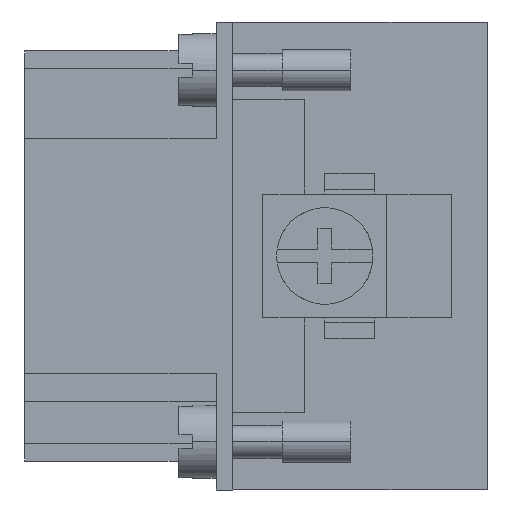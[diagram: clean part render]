
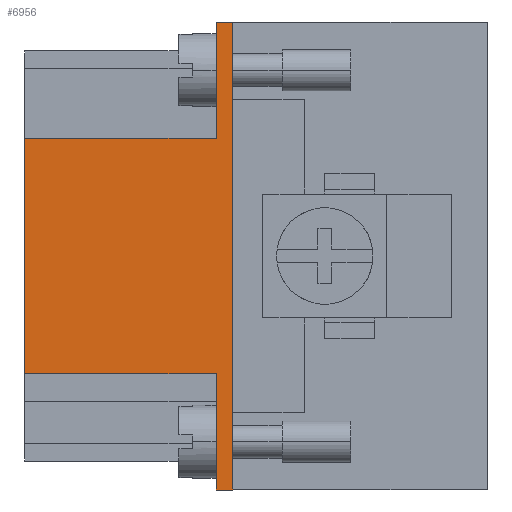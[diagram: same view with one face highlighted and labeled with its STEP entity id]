
A CAD part, left-side view. The second image highlights one B-rep face of the part: STEP entity #6956.
In plain terms, the highlighted planar face has unit normal (-1, 0, 0).
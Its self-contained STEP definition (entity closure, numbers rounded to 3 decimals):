
#47 = CARTESIAN_POINT ( 'NONE',  ( -32.25, -13.9, -17. ) ) ;
#204 = CARTESIAN_POINT ( 'NONE',  ( -32.25, 0., 8.55 ) ) ;
#273 = EDGE_CURVE ( 'NONE', #10133, #6942, #4378, .T. ) ;
#376 = EDGE_CURVE ( 'NONE', #4005, #5736, #6364, .T. ) ;
#633 = DIRECTION ( 'NONE',  ( 0., 1., 0. ) ) ;
#694 = LINE ( 'NONE', #47, #10790 ) ;
#1310 = EDGE_CURVE ( 'NONE', #7392, #5736, #5119, .T. ) ;
#1600 = VECTOR ( 'NONE', #12323, 1000. ) ;
#1604 = CARTESIAN_POINT ( 'NONE',  ( -32.25, -34.241, 8.55 ) ) ;
#1890 = CARTESIAN_POINT ( 'NONE',  ( -32.25, 0., 8.55 ) ) ;
#1928 = VECTOR ( 'NONE', #11600, 1000. ) ;
#1947 = CARTESIAN_POINT ( 'NONE',  ( -32.25, -13.9, 8.55 ) ) ;
#1956 = CARTESIAN_POINT ( 'NONE',  ( -32.25, -13.9, 17. ) ) ;
#1989 = CARTESIAN_POINT ( 'NONE',  ( -32.25, -13.9, -8.55 ) ) ;
#2335 = DIRECTION ( 'NONE',  ( 0., 0., -1. ) ) ;
#2499 = ORIENTED_EDGE ( 'NONE', *, *, #7420, .F. ) ;
#2507 = ORIENTED_EDGE ( 'NONE', *, *, #376, .F. ) ;
#2553 = AXIS2_PLACEMENT_3D ( 'NONE', #8468, #2864, #10701 ) ;
#2864 = DIRECTION ( 'NONE',  ( -1., 0., 0. ) ) ;
#3361 = CARTESIAN_POINT ( 'NONE',  ( -32.25, -15.1, 8.55 ) ) ;
#3424 = CARTESIAN_POINT ( 'NONE',  ( -32.25, 0., -8.55 ) ) ;
#3538 = VECTOR ( 'NONE', #2335, 1000. ) ;
#3546 = CARTESIAN_POINT ( 'NONE',  ( -32.25, -13.9, -17. ) ) ;
#3589 = EDGE_CURVE ( 'NONE', #4045, #9911, #4805, .T. ) ;
#3770 = VECTOR ( 'NONE', #12457, 1000. ) ;
#3892 = VECTOR ( 'NONE', #633, 1000. ) ;
#4005 = VERTEX_POINT ( 'NONE', #3424 ) ;
#4045 = VERTEX_POINT ( 'NONE', #3546 ) ;
#4122 = DIRECTION ( 'NONE',  ( 0., 1., 0. ) ) ;
#4378 = LINE ( 'NONE', #12336, #3770 ) ;
#4805 = LINE ( 'NONE', #6466, #1600 ) ;
#4819 = EDGE_CURVE ( 'NONE', #6942, #9911, #5677, .T. ) ;
#4828 = DIRECTION ( 'NONE',  ( 0., 0., 1. ) ) ;
#5119 = LINE ( 'NONE', #1604, #3892 ) ;
#5361 = ORIENTED_EDGE ( 'NONE', *, *, #273, .F. ) ;
#5419 = CARTESIAN_POINT ( 'NONE',  ( -32.25, -15.1, -17. ) ) ;
#5677 = LINE ( 'NONE', #3361, #3538 ) ;
#5736 = VERTEX_POINT ( 'NONE', #204 ) ;
#5862 = EDGE_LOOP ( 'NONE', ( #11648, #9426, #2507, #2499, #9657, #10075, #9465, #5361 ) ) ;
#6194 = LINE ( 'NONE', #11775, #10467 ) ;
#6364 = LINE ( 'NONE', #1890, #1928 ) ;
#6466 = CARTESIAN_POINT ( 'NONE',  ( -32.25, -13.9, -17. ) ) ;
#6942 = VERTEX_POINT ( 'NONE', #10221 ) ;
#6956 = ADVANCED_FACE ( 'NONE', ( #9443 ), #10268, .T. ) ;
#7392 = VERTEX_POINT ( 'NONE', #1947 ) ;
#7420 = EDGE_CURVE ( 'NONE', #8243, #4005, #7447, .T. ) ;
#7447 = LINE ( 'NONE', #10956, #10667 ) ;
#8243 = VERTEX_POINT ( 'NONE', #1989 ) ;
#8468 = CARTESIAN_POINT ( 'NONE',  ( -32.25, -34.241, 8.55 ) ) ;
#8850 = EDGE_CURVE ( 'NONE', #7392, #10133, #694, .T. ) ;
#8913 = DIRECTION ( 'NONE',  ( 0., 0., 1. ) ) ;
#9426 = ORIENTED_EDGE ( 'NONE', *, *, #1310, .T. ) ;
#9443 = FACE_OUTER_BOUND ( 'NONE', #5862, .T. ) ;
#9465 = ORIENTED_EDGE ( 'NONE', *, *, #4819, .F. ) ;
#9657 = ORIENTED_EDGE ( 'NONE', *, *, #10743, .F. ) ;
#9911 = VERTEX_POINT ( 'NONE', #5419 ) ;
#10075 = ORIENTED_EDGE ( 'NONE', *, *, #3589, .T. ) ;
#10133 = VERTEX_POINT ( 'NONE', #1956 ) ;
#10221 = CARTESIAN_POINT ( 'NONE',  ( -32.25, -15.1, 17. ) ) ;
#10268 = PLANE ( 'NONE',  #2553 ) ;
#10467 = VECTOR ( 'NONE', #8913, 1000. ) ;
#10667 = VECTOR ( 'NONE', #4122, 1000. ) ;
#10701 = DIRECTION ( 'NONE',  ( 0., 1., 0. ) ) ;
#10743 = EDGE_CURVE ( 'NONE', #4045, #8243, #6194, .T. ) ;
#10790 = VECTOR ( 'NONE', #4828, 1000. ) ;
#10956 = CARTESIAN_POINT ( 'NONE',  ( -32.25, -34.241, -8.55 ) ) ;
#11600 = DIRECTION ( 'NONE',  ( 0., 0., 1. ) ) ;
#11648 = ORIENTED_EDGE ( 'NONE', *, *, #8850, .F. ) ;
#11775 = CARTESIAN_POINT ( 'NONE',  ( -32.25, -13.9, -17. ) ) ;
#12323 = DIRECTION ( 'NONE',  ( 0., -1., 0. ) ) ;
#12336 = CARTESIAN_POINT ( 'NONE',  ( -32.25, -13.9, 17. ) ) ;
#12457 = DIRECTION ( 'NONE',  ( 0., -1., 0. ) ) ;
